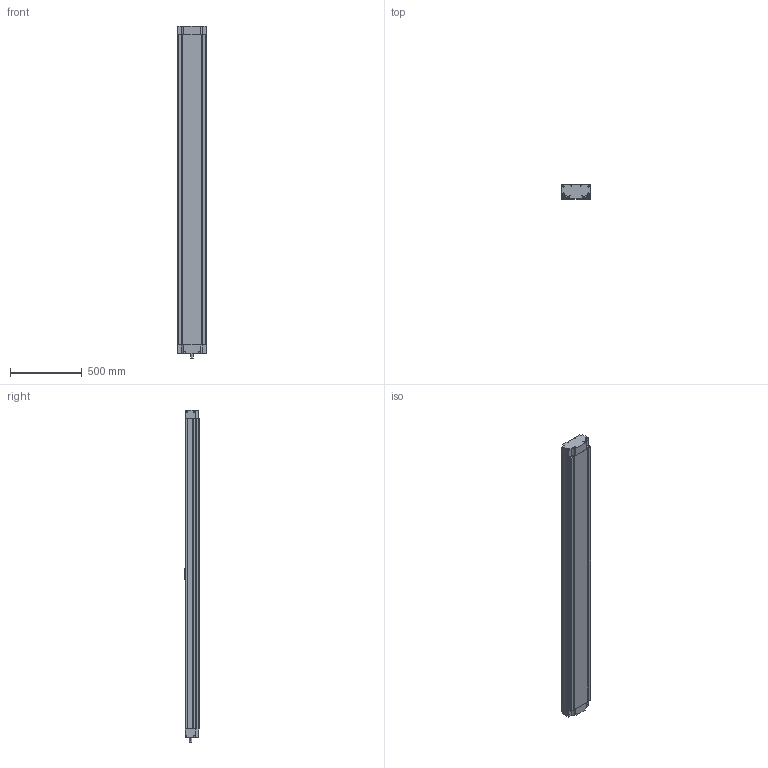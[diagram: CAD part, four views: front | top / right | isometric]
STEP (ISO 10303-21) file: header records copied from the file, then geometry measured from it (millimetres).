
FILE_DESCRIPTION (( 'STEP AP203' ), '1' );
FILE_NAME ('MSY200B-2000-LL3205-P7.STEP', '2013-11-02T05:15:29', ( '微软用户' ), ( '微软中国' ), 'SwSTEP 2.0', 'SolidWorks 2010', '' );
FILE_SCHEMA (( 'CONFIG_CONTROL_DESIGN' ));
Length unit declared in the file: millimetre
Products named in the file (1): MSY200B-2000-LL3205-P7
Bounding box: 200.2 x 99.96 x 2311 mm (x, y, z)
Volume: 41229091.6 mm3; surface area: 2292298.3 mm2
Topology: 1 solids, 1 shells, 326 faces, 855 edges, 552 vertices
Faces by surface type: plane 220, cylinder 98, cone 8
Entity records: 10045 total; most frequent: CARTESIAN_POINT 1756, DIRECTION 1702, ORIENTED_EDGE 1694, EDGE_CURVE 847, VECTOR 642, LINE 642, VERTEX_POINT 552, AXIS2_PLACEMENT_3D 530
